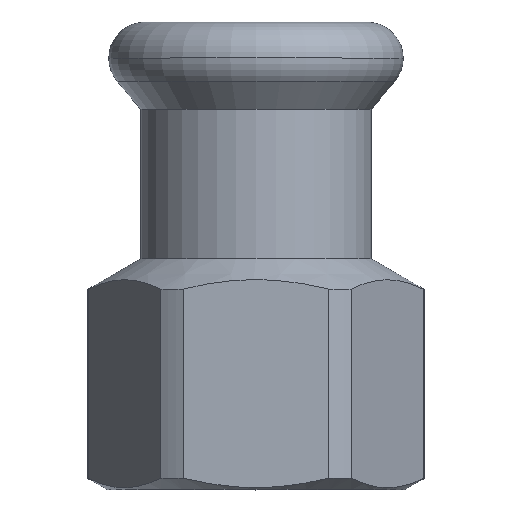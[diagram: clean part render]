
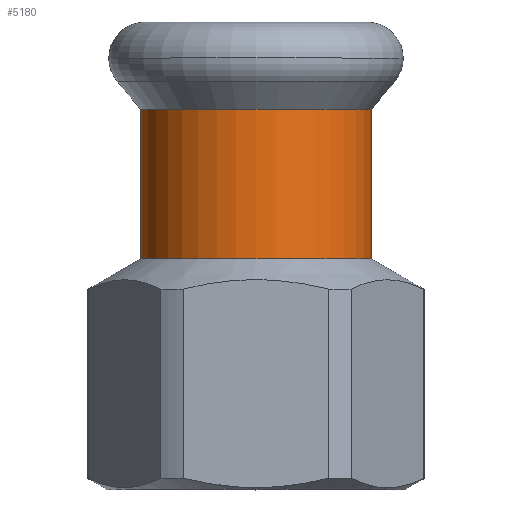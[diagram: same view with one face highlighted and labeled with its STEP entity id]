
A CAD part, top view. The second image highlights one B-rep face of the part: STEP entity #5180.
In plain terms, the highlighted cylindrical face has radius 9.125 mm (diameter 18.25 mm), a partial arc.
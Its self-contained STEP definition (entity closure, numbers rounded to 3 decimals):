
#4530=CARTESIAN_POINT('',(-87.068,54.512,0.));
#4540=VERTEX_POINT('',#4530);
#4720=CARTESIAN_POINT('',(-105.318,54.512,
0.));
#4730=VERTEX_POINT('',#4720);
#4760=CARTESIAN_POINT('',(-96.193,54.512,0.));
#4770=DIRECTION('',(0.,1.,0.));
#4780=DIRECTION('',(-1.,0.,0.));
#4790=AXIS2_PLACEMENT_3D('',#4760,#4770,#4780);
#4800=CIRCLE('',#4790,9.125);
#4860=CARTESIAN_POINT('',(-96.193,47.688,0.));
#4870=DIRECTION('',(0.,-1.,0.));
#4880=DIRECTION('',(-1.,0.,0.));
#4890=AXIS2_PLACEMENT_3D('',#4860,#4870,#4880);
#4900=CYLINDRICAL_SURFACE('',#4890,9.125);
#4910=CARTESIAN_POINT('',(-105.318,47.688,0.));
#4920=DIRECTION('',(0.,-1.,0.));
#4930=VECTOR('',#4920,1.);
#4940=LINE('',#4910,#4930);
#4950=CARTESIAN_POINT('',(-105.318,42.68,0.));
#4960=VERTEX_POINT('',#4950);
#4970=EDGE_CURVE('',#4730,#4960,#4940,.T.);
#4980=ORIENTED_EDGE('',*,*,#4970,.T.);
#4990=EDGE_CURVE('',#4730,#4540,#4800,.T.);
#5000=ORIENTED_EDGE('',*,*,#4990,.F.);
#5010=CARTESIAN_POINT('',(-87.068,47.688,
0.));
#5020=DIRECTION('',(0.,-1.,0.));
#5030=VECTOR('',#5020,1.);
#5040=LINE('',#5010,#5030);
#5050=CARTESIAN_POINT('',(-87.068,42.68,
0.));
#5060=VERTEX_POINT('',#5050);
#5070=EDGE_CURVE('',#4540,#5060,#5040,.T.);
#5080=ORIENTED_EDGE('',*,*,#5070,.F.);
#5090=CARTESIAN_POINT('',(-96.193,42.68,0.));
#5100=DIRECTION('',(0.,-1.,0.));
#5110=DIRECTION('',(-1.,0.,0.));
#5120=AXIS2_PLACEMENT_3D('',#5090,#5100,#5110);
#5130=CIRCLE('',#5120,9.125);
#5140=EDGE_CURVE('',#5060,#4960,#5130,.T.);
#5150=ORIENTED_EDGE('',*,*,#5140,.F.);
#5160=EDGE_LOOP('',(#5150,#5080,#5000,#4980));
#5170=FACE_OUTER_BOUND('',#5160,.T.);
#5180=ADVANCED_FACE('',(#5170),#4900,.T.);
